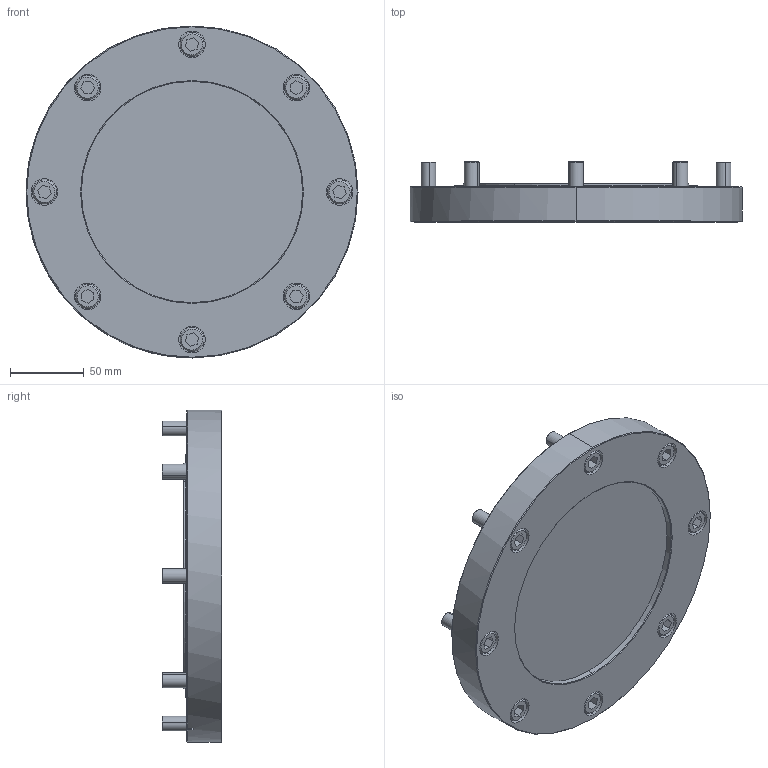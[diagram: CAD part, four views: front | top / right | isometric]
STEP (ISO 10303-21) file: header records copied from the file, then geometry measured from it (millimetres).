
FILE_DESCRIPTION (( 'STEP AP214' ), '1' );
FILE_NAME ('JK160-G-A-V-200319.STEP', '2020-05-03T05:32:11', ( '' ), ( '' ), 'SwSTEP 2.0', 'SolidWorks 2018', '' );
FILE_SCHEMA (( 'AUTOMOTIVE_DESIGN' ));
Length unit declared in the file: millimetre
Products named in the file (6): AS568-258; JK160-02B; JK160-01E; JK160-G-A-V-200319; JK160-03G; COM-001-M10-30_ル遽
Assembly tree (12 placements, depth 2):
  JK160-G-A-V-200319
    JK160-03G
    AS568-258
    JK160-01E
    JK160-02B
    COM-001-M10-30_ル遽  x8
Bounding box: 225 x 40.6 x 225 mm (x, y, z)
Volume: 788682.2 mm3; surface area: 171990.1 mm2
Topology: 12 solids, 12 shells, 259 faces, 570 edges, 360 vertices
Faces by surface type: plane 101, cylinder 82, cone 49, torus 27
Entity records: 4270 total; most frequent: CARTESIAN_POINT 804, DIRECTION 752, ORIENTED_EDGE 608, AXIS2_PLACEMENT_3D 328, EDGE_CURVE 304, VERTEX_POINT 192, CIRCLE 180, EDGE_LOOP 166
